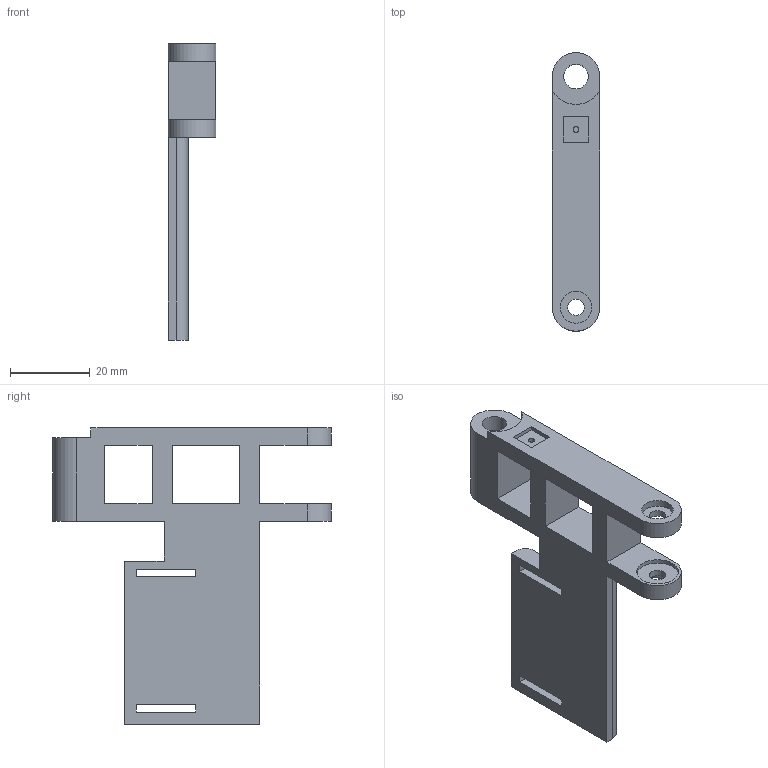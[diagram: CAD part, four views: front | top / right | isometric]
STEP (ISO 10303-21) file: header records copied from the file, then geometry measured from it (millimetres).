
FILE_DESCRIPTION (( 'STEP AP214' ), '1' );
FILE_NAME ('left-hand-left-finger-inner-link.step', '2026-11-14T03:54:52', ( '' ), ( '' ), 'SwSTEP 2.0', 'SolidWorks 2024', '' );
FILE_SCHEMA (( 'AUTOMOTIVE_DESIGN' ));
Length unit declared in the file: millimetre
Products named in the file (1): left-hand-left-finger-inner-link
Bounding box: 12 x 70 x 74.5 mm (x, y, z)
Volume: 17269.3 mm3; surface area: 10200.2 mm2
Topology: 1 solids, 1 shells, 58 faces, 158 edges, 105 vertices
Faces by surface type: plane 45, cylinder 13
Full cylindrical faces by diameter (mm): 1.5 x1, 4.1 x2, 6.16 x1, 8 x1, 10.5 x2
Entity records: 1813 total; most frequent: CARTESIAN_POINT 309, ORIENTED_EDGE 296, DIRECTION 292, EDGE_CURVE 148, VECTOR 122, LINE 122, VERTEX_POINT 102, AXIS2_PLACEMENT_3D 85
